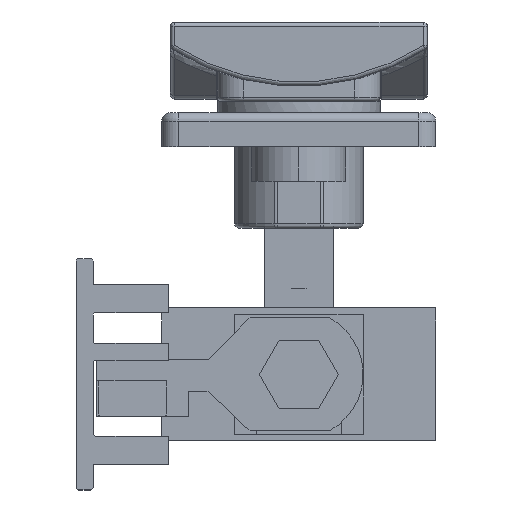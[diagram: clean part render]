
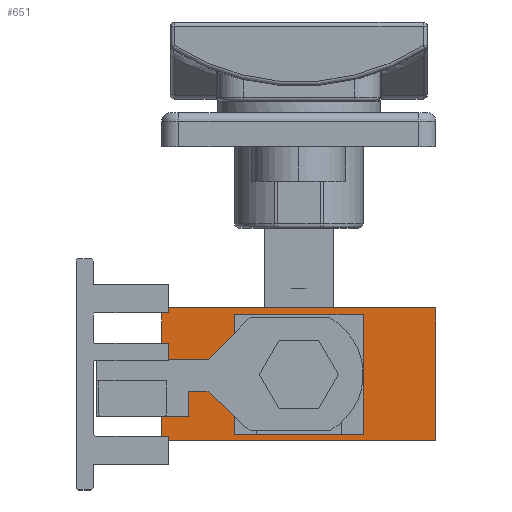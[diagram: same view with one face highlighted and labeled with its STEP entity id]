
A CAD part, front view. The second image highlights one B-rep face of the part: STEP entity #651.
In plain terms, the highlighted planar face has unit normal (0, -1, 0).
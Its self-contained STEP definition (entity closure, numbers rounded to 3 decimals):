
#276 = DIRECTION ( 'NONE',  ( 1., 0., 0. ) ) ;
#534 = CARTESIAN_POINT ( 'NONE',  ( -16., -72.75, 7.75 ) ) ;
#651 = ADVANCED_FACE ( 'NONE', ( #11093, #17076 ), #13772, .F. ) ;
#684 = LINE ( 'NONE', #5414, #5137 ) ;
#884 = ORIENTED_EDGE ( 'NONE', *, *, #3242, .F. ) ;
#953 = EDGE_CURVE ( 'NONE', #8433, #2752, #10807, .T. ) ;
#958 = LINE ( 'NONE', #14390, #12556 ) ;
#1565 = LINE ( 'NONE', #1769, #13991 ) ;
#1769 = CARTESIAN_POINT ( 'NONE',  ( 7., -72.75, 6.25 ) ) ;
#2165 = ORIENTED_EDGE ( 'NONE', *, *, #12337, .F. ) ;
#2544 = VERTEX_POINT ( 'NONE', #6637 ) ;
#2546 = VECTOR ( 'NONE', #7736, 1000. ) ;
#2752 = VERTEX_POINT ( 'NONE', #16638 ) ;
#3242 = EDGE_CURVE ( 'NONE', #8433, #2544, #13805, .T. ) ;
#3261 = ORIENTED_EDGE ( 'NONE', *, *, #18508, .F. ) ;
#3382 = CARTESIAN_POINT ( 'NONE',  ( -16., -72.75, 7.75 ) ) ;
#3571 = DIRECTION ( 'NONE',  ( 0., 0., 1. ) ) ;
#4067 = VERTEX_POINT ( 'NONE', #11057 ) ;
#4479 = ORIENTED_EDGE ( 'NONE', *, *, #953, .T. ) ;
#4745 = CARTESIAN_POINT ( 'NONE',  ( -7., -72.75, -6.25 ) ) ;
#4808 = LINE ( 'NONE', #16810, #15571 ) ;
#5137 = VECTOR ( 'NONE', #6728, 1000. ) ;
#5187 = CARTESIAN_POINT ( 'NONE',  ( 7., -72.75, 6.25 ) ) ;
#5414 = CARTESIAN_POINT ( 'NONE',  ( 16., -72.75, 7.75 ) ) ;
#5651 = EDGE_LOOP ( 'NONE', ( #10868, #3261, #11953, #2165 ) ) ;
#6637 = CARTESIAN_POINT ( 'NONE',  ( 16., -72.75, 7.75 ) ) ;
#6728 = DIRECTION ( 'NONE',  ( 0., 0., -1. ) ) ;
#6771 = EDGE_CURVE ( 'NONE', #2752, #11198, #4808, .T. ) ;
#7736 = DIRECTION ( 'NONE',  ( 0., 0., -1. ) ) ;
#8433 = VERTEX_POINT ( 'NONE', #14213 ) ;
#9455 = DIRECTION ( 'NONE',  ( 0., 0., -1. ) ) ;
#9986 = VECTOR ( 'NONE', #276, 1000. ) ;
#10333 = VERTEX_POINT ( 'NONE', #5187 ) ;
#10807 = LINE ( 'NONE', #534, #11613 ) ;
#10868 = ORIENTED_EDGE ( 'NONE', *, *, #16019, .F. ) ;
#11057 = CARTESIAN_POINT ( 'NONE',  ( -7., -72.75, 6.25 ) ) ;
#11093 = FACE_BOUND ( 'NONE', #5651, .T. ) ;
#11198 = VERTEX_POINT ( 'NONE', #19455 ) ;
#11524 = LINE ( 'NONE', #18994, #16789 ) ;
#11613 = VECTOR ( 'NONE', #9455, 1000. ) ;
#11715 = DIRECTION ( 'NONE',  ( -1., 0., 0. ) ) ;
#11829 = VERTEX_POINT ( 'NONE', #12645 ) ;
#11940 = VERTEX_POINT ( 'NONE', #14415 ) ;
#11953 = ORIENTED_EDGE ( 'NONE', *, *, #18198, .F. ) ;
#12337 = EDGE_CURVE ( 'NONE', #11829, #11940, #958, .T. ) ;
#12420 = CARTESIAN_POINT ( 'NONE',  ( -16., -72.75, 7.75 ) ) ;
#12556 = VECTOR ( 'NONE', #14677, 1000. ) ;
#12645 = CARTESIAN_POINT ( 'NONE',  ( -7., -72.75, -6.25 ) ) ;
#13772 = PLANE ( 'NONE',  #18513 ) ;
#13805 = LINE ( 'NONE', #12420, #9986 ) ;
#13991 = VECTOR ( 'NONE', #15073, 1000. ) ;
#14135 = ORIENTED_EDGE ( 'NONE', *, *, #17914, .F. ) ;
#14213 = CARTESIAN_POINT ( 'NONE',  ( -16., -72.75, 7.75 ) ) ;
#14390 = CARTESIAN_POINT ( 'NONE',  ( -7., -72.75, -6.25 ) ) ;
#14415 = CARTESIAN_POINT ( 'NONE',  ( 7., -72.75, -6.25 ) ) ;
#14677 = DIRECTION ( 'NONE',  ( 1., 0., 0. ) ) ;
#15073 = DIRECTION ( 'NONE',  ( 0., 0., 1. ) ) ;
#15096 = LINE ( 'NONE', #4745, #2546 ) ;
#15163 = DIRECTION ( 'NONE',  ( 1., 0., 0. ) ) ;
#15571 = VECTOR ( 'NONE', #15163, 1000. ) ;
#16019 = EDGE_CURVE ( 'NONE', #4067, #11829, #15096, .T. ) ;
#16638 = CARTESIAN_POINT ( 'NONE',  ( -16., -72.75, -7.75 ) ) ;
#16789 = VECTOR ( 'NONE', #11715, 1000. ) ;
#16810 = CARTESIAN_POINT ( 'NONE',  ( -16., -72.75, -7.75 ) ) ;
#16882 = DIRECTION ( 'NONE',  ( 0., 1., 0. ) ) ;
#17076 = FACE_OUTER_BOUND ( 'NONE', #19299, .T. ) ;
#17914 = EDGE_CURVE ( 'NONE', #2544, #11198, #684, .T. ) ;
#18198 = EDGE_CURVE ( 'NONE', #11940, #10333, #1565, .T. ) ;
#18508 = EDGE_CURVE ( 'NONE', #10333, #4067, #11524, .T. ) ;
#18513 = AXIS2_PLACEMENT_3D ( 'NONE', #3382, #16882, #3571 ) ;
#18994 = CARTESIAN_POINT ( 'NONE',  ( 7., -72.75, 6.25 ) ) ;
#18997 = ORIENTED_EDGE ( 'NONE', *, *, #6771, .T. ) ;
#19299 = EDGE_LOOP ( 'NONE', ( #18997, #14135, #884, #4479 ) ) ;
#19455 = CARTESIAN_POINT ( 'NONE',  ( 16., -72.75, -7.75 ) ) ;
